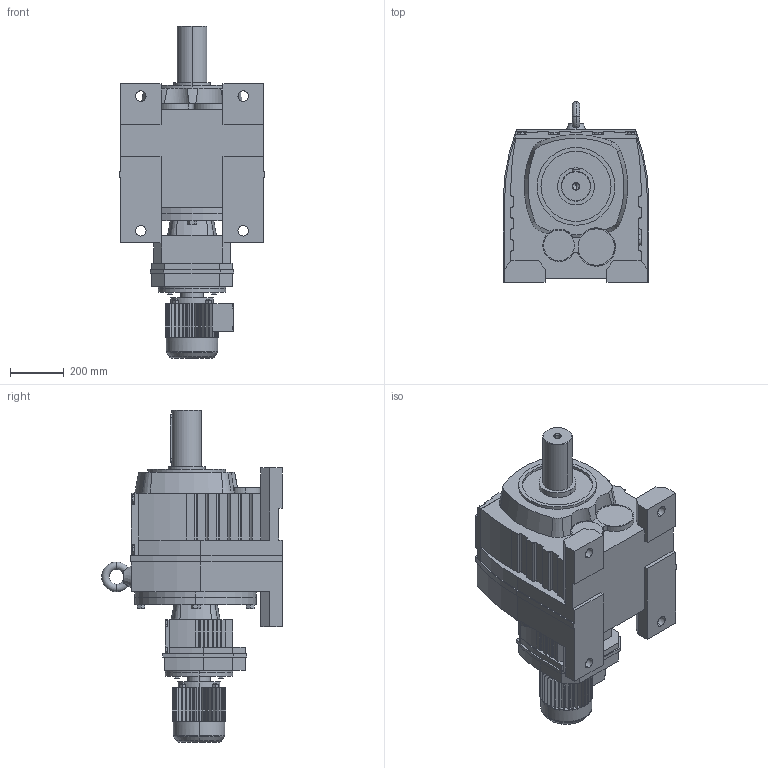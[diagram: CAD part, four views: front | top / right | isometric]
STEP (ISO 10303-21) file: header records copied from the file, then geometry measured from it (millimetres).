
FILE_DESCRIPTION(('Open CASCADE Model'),'2;1');
FILE_NAME('Open CASCADE Shape Model','2021-07-24T14:38:12',('Author'),( 'Open CASCADE'),'Open CASCADE STEP processor 6.3','Open CASCADE 6.3' ,'Unknown');
FILE_SCHEMA(('AUTOMOTIVE_DESIGN_CC2 { 1 2 10303 214 -1 1 5 4 }'));
Length unit declared in the file: millimetre
Products named in the file (4): 1_R147R87DT90; R37‵167_R147R87.step; 萇儂_250-DT90-257-342-197-154.step; R_147_87.step
Assembly tree (3 placements, depth 2):
  1_R147R87DT90
    R37‵167_R147R87.step
    萇儂_250-DT90-257-342-197-154.step
    R_147_87.step
Bounding box: 540 x 670 x 1232 mm (x, y, z)
Volume: 147687097.7 mm3; surface area: 3097269.5 mm2
Topology: 3 solids, 3 shells, 975 faces, 2604 edges, 1695 vertices
Faces by surface type: plane 719, cylinder 218, cone 28, torus 10
Entity records: 67714 total; most frequent: CARTESIAN_POINT 17462, DIRECTION 8859, LINE 5287, VECTOR 5287, ORIENTED_EDGE 5204, PCURVE 5204, DEFINITIONAL_REPRESENTATION 5204, EDGE_CURVE 2602
